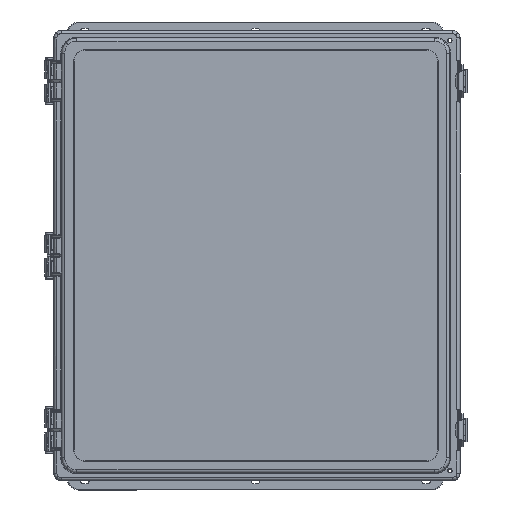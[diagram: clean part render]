
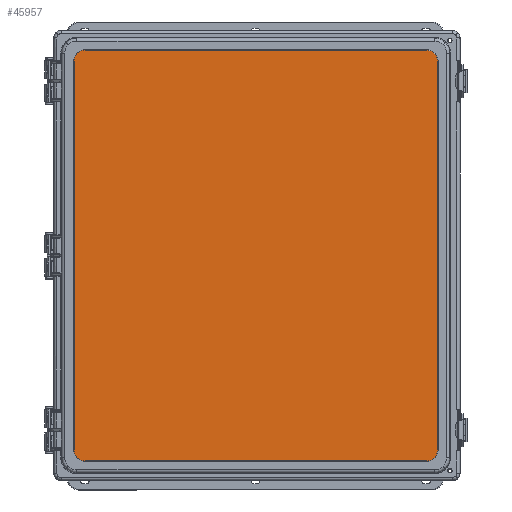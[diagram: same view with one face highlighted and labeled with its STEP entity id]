
A CAD part, top view. The second image highlights one B-rep face of the part: STEP entity #45957.
In plain terms, the highlighted planar face has unit normal (0, 0, 1) as drawn and (0, 0, -1) by its records, which use the part's own axes.
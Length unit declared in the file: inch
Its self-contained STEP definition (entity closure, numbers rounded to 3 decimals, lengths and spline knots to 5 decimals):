
#1561 = DIRECTION ( 'NONE',  ( -1., 0., 0. ) ) ;
#2151 = CARTESIAN_POINT ( 'NONE',  ( -7.71327, 8.29151, -1.375 ) ) ;
#2268 = ORIENTED_EDGE ( 'NONE', *, *, #36680, .T. ) ;
#2430 = DIRECTION ( 'NONE',  ( 1., 0., 0. ) ) ;
#3743 = DIRECTION ( 'NONE',  ( -1., 0., 0. ) ) ;
#4655 = ORIENTED_EDGE ( 'NONE', *, *, #98236, .T. ) ;
#7695 = DIRECTION ( 'NONE',  ( 0., 0., 1. ) ) ;
#8002 = VECTOR ( 'NONE', #128011, 39.37008 ) ;
#9279 = CARTESIAN_POINT ( 'NONE',  ( -7.23901, 8.29151, -1.375 ) ) ;
#10767 = CARTESIAN_POINT ( 'NONE',  ( 7.32827, 8.76577, -1.375 ) ) ;
#15168 = CARTESIAN_POINT ( 'NONE',  ( -7.23901, -8.76577, -1.375 ) ) ;
#16203 = CIRCLE ( 'NONE', #163049, 0.47426 ) ;
#20756 = ORIENTED_EDGE ( 'NONE', *, *, #99057, .F. ) ;
#21923 = CIRCLE ( 'NONE', #76132, 0.47426 ) ;
#22665 = DIRECTION ( 'NONE',  ( -1., 0., 0. ) ) ;
#28932 = VECTOR ( 'NONE', #51640, 39.37008 ) ;
#34545 = CARTESIAN_POINT ( 'NONE',  ( 7.32827, -8.76577, -1.375 ) ) ;
#36680 = EDGE_CURVE ( 'NONE', #117483, #46221, #154157, .T. ) ;
#38541 = LINE ( 'NONE', #110022, #105413 ) ;
#38606 = AXIS2_PLACEMENT_3D ( 'NONE', #60870, #7695, #101095 ) ;
#39551 = EDGE_CURVE ( 'NONE', #148524, #117483, #21923, .T. ) ;
#42784 = CARTESIAN_POINT ( 'NONE',  ( 7.80253, 8.29151, -1.375 ) ) ;
#45871 = CIRCLE ( 'NONE', #77786, 0.47426 ) ;
#45957 = ADVANCED_FACE ( 'NONE', ( #80631 ), #167503, .F. ) ;
#46221 = VERTEX_POINT ( 'NONE', #15168 ) ;
#51640 = DIRECTION ( 'NONE',  ( 0., -1., 0. ) ) ;
#57157 = AXIS2_PLACEMENT_3D ( 'NONE', #9279, #102685, #22665 ) ;
#60310 = LINE ( 'NONE', #131600, #28932 ) ;
#60870 = CARTESIAN_POINT ( 'NONE',  ( -8.6675, 9.605, -1.375 ) ) ;
#61461 = VERTEX_POINT ( 'NONE', #98234 ) ;
#64143 = CARTESIAN_POINT ( 'NONE',  ( -7.23901, -8.29151, -1.375 ) ) ;
#64607 = CARTESIAN_POINT ( 'NONE',  ( 7.32827, -8.76577, -1.375 ) ) ;
#67188 = VERTEX_POINT ( 'NONE', #42784 ) ;
#76132 = AXIS2_PLACEMENT_3D ( 'NONE', #163579, #83843, #3743 ) ;
#77632 = DIRECTION ( 'NONE',  ( -1., 0., 0. ) ) ;
#77786 = AXIS2_PLACEMENT_3D ( 'NONE', #161399, #81628, #1561 ) ;
#80163 = EDGE_CURVE ( 'NONE', #67188, #148524, #38541, .T. ) ;
#80631 = FACE_OUTER_BOUND ( 'NONE', #103564, .T. ) ;
#81628 = DIRECTION ( 'NONE',  ( 0., 0., -1. ) ) ;
#83843 = DIRECTION ( 'NONE',  ( 0., 0., -1. ) ) ;
#88362 = ORIENTED_EDGE ( 'NONE', *, *, #114629, .T. ) ;
#95344 = CARTESIAN_POINT ( 'NONE',  ( 7.80253, -8.29151, -1.375 ) ) ;
#95856 = CARTESIAN_POINT ( 'NONE',  ( -7.23901, 8.76577, -1.375 ) ) ;
#98234 = CARTESIAN_POINT ( 'NONE',  ( -7.71327, -8.29151, -1.375 ) ) ;
#98236 = EDGE_CURVE ( 'NONE', #129699, #67188, #45871, .T. ) ;
#99057 = EDGE_CURVE ( 'NONE', #121471, #61461, #60310, .T. ) ;
#101095 = DIRECTION ( 'NONE',  ( 1., 0., 0. ) ) ;
#102685 = DIRECTION ( 'NONE',  ( 0., 0., -1. ) ) ;
#103564 = EDGE_LOOP ( 'NONE', ( #2268, #149448, #20756, #88362, #169038, #4655, #139374, #142271 ) ) ;
#105413 = VECTOR ( 'NONE', #160989, 39.37008 ) ;
#110022 = CARTESIAN_POINT ( 'NONE',  ( 7.80253, 8.29151, -1.375 ) ) ;
#114629 = EDGE_CURVE ( 'NONE', #121471, #167575, #139214, .T. ) ;
#117483 = VERTEX_POINT ( 'NONE', #64607 ) ;
#121471 = VERTEX_POINT ( 'NONE', #2151 ) ;
#124044 = EDGE_CURVE ( 'NONE', #46221, #61461, #16203, .T. ) ;
#128011 = DIRECTION ( 'NONE',  ( -1., 0., 0. ) ) ;
#129699 = VERTEX_POINT ( 'NONE', #10767 ) ;
#131600 = CARTESIAN_POINT ( 'NONE',  ( -7.71327, 8.29151, -1.375 ) ) ;
#139214 = CIRCLE ( 'NONE', #57157, 0.47426 ) ;
#139374 = ORIENTED_EDGE ( 'NONE', *, *, #80163, .T. ) ;
#142271 = ORIENTED_EDGE ( 'NONE', *, *, #39551, .T. ) ;
#148524 = VERTEX_POINT ( 'NONE', #95344 ) ;
#149448 = ORIENTED_EDGE ( 'NONE', *, *, #124044, .T. ) ;
#154157 = LINE ( 'NONE', #34545, #8002 ) ;
#157406 = DIRECTION ( 'NONE',  ( 0., 0., -1. ) ) ;
#160458 = CARTESIAN_POINT ( 'NONE',  ( -7.23901, 8.76577, -1.375 ) ) ;
#160989 = DIRECTION ( 'NONE',  ( 0., -1., 0. ) ) ;
#161399 = CARTESIAN_POINT ( 'NONE',  ( 7.32827, 8.29151, -1.375 ) ) ;
#163049 = AXIS2_PLACEMENT_3D ( 'NONE', #64143, #157406, #77632 ) ;
#163579 = CARTESIAN_POINT ( 'NONE',  ( 7.32827, -8.29151, -1.375 ) ) ;
#167503 = PLANE ( 'NONE',  #38606 ) ;
#167575 = VERTEX_POINT ( 'NONE', #160458 ) ;
#168023 = LINE ( 'NONE', #95856, #172157 ) ;
#169038 = ORIENTED_EDGE ( 'NONE', *, *, #172067, .T. ) ;
#172067 = EDGE_CURVE ( 'NONE', #167575, #129699, #168023, .T. ) ;
#172157 = VECTOR ( 'NONE', #2430, 39.37008 ) ;
